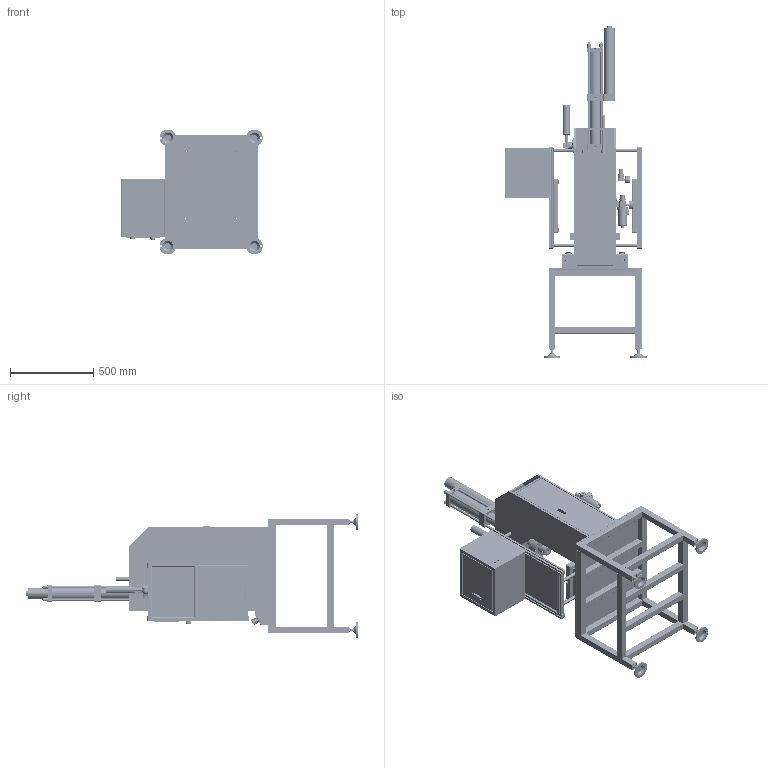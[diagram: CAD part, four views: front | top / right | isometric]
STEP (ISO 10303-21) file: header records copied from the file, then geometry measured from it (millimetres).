
FILE_DESCRIPTION((''),'2;1');
FILE_NAME('ZHENJI_ASM','2026-06-14T15:57:58',('zxb27'),(''),'CREO PARAMETRIC BY PTC INC, 2022164','CREO PARAMETRIC BY PTC INC, 2022164','');
FILE_SCHEMA(('AUTOMOTIVE_DESIGN { 1 0 10303 214 1 1 1 1 }'));
Products named in the file (1): ZHENJI_ASM
Bounding box: 850 x 1992 x 750 mm (x, y, z)
Surface area: 10086474.2 mm2 (no closed solid volume)
Topology: 0 solids, 138 shells, 9400 faces, 26908 edges, 17566 vertices
Faces by surface type: plane 5779, cylinder 2872, cone 276, bspline 264, torus 146, sphere 45, extrusion 18
Entity records: 477838 total; most frequent: CARTESIAN_POINT 169490, ORIENTED_EDGE 51680, DIRECTION 46906, EDGE_CURVE 26844, VECTOR 17908, LINE 17890, VERTEX_POINT 17566, PRESENTATION_STYLE_ASSIGNMENT 14646
